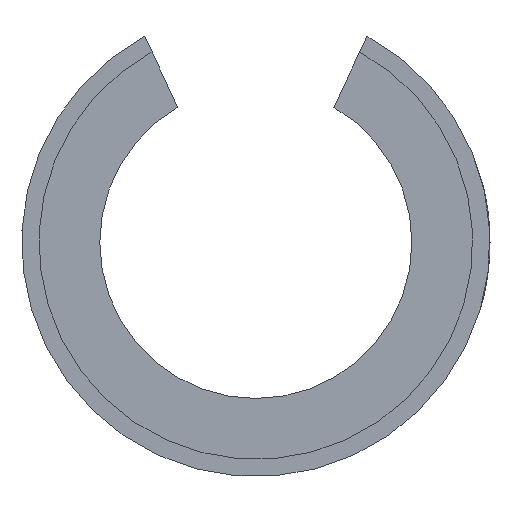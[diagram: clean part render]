
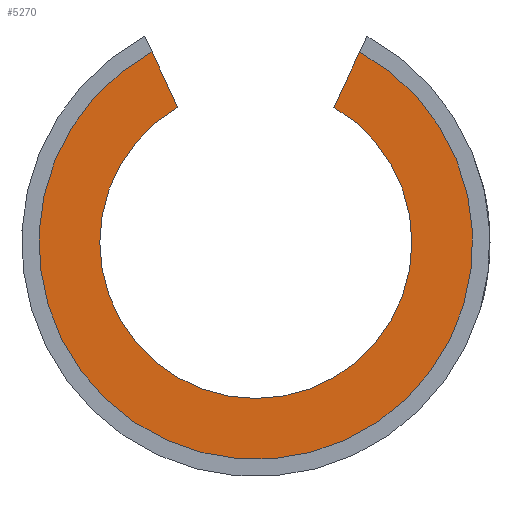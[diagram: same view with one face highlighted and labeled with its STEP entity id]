
A CAD part, left-side view. The second image highlights one B-rep face of the part: STEP entity #5270.
In plain terms, the highlighted planar face has unit normal (-1, 0, 0).
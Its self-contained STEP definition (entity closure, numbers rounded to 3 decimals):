
#125=PLANE('',#5683);
#347=CIRCLE('',#5658,40.);
#360=CIRCLE('',#5684,55.594);
#542=LINE('',#8469,#987);
#543=LINE('',#8471,#988);
#987=VECTOR('',#6264,1000.);
#988=VECTOR('',#6265,1000.);
#1607=ORIENTED_EDGE('',*,*,#3182,.T.);
#1608=ORIENTED_EDGE('',*,*,#3143,.T.);
#1609=ORIENTED_EDGE('',*,*,#3183,.T.);
#1610=ORIENTED_EDGE('',*,*,#3184,.F.);
#3143=EDGE_CURVE('',#3937,#3938,#347,.F.);
#3182=EDGE_CURVE('',#3963,#3937,#542,.T.);
#3183=EDGE_CURVE('',#3938,#3964,#543,.T.);
#3184=EDGE_CURVE('',#3963,#3964,#360,.T.);
#3937=VERTEX_POINT('',#8392);
#3938=VERTEX_POINT('',#8393);
#3963=VERTEX_POINT('',#8470);
#3964=VERTEX_POINT('',#8472);
#4489=EDGE_LOOP('',(#1607,#1608,#1609,#1610));
#4869=FACE_BOUND('',#4489,.T.);
#5270=ADVANCED_FACE('',(#4869),#125,.T.);
#5658=AXIS2_PLACEMENT_3D('',#8391,#6186,#6187);
#5683=AXIS2_PLACEMENT_3D('',#8468,#6262,#6263);
#5684=AXIS2_PLACEMENT_3D('',#8473,#6266,#6267);
#6186=DIRECTION('',(-1.,0.,0.));
#6187=DIRECTION('',(0.,0.,1.));
#6262=DIRECTION('',(-1.,0.,0.));
#6263=DIRECTION('',(0.,0.,-1.));
#6264=DIRECTION('',(0.,0.423,-0.906));
#6265=DIRECTION('',(0.,0.423,0.906));
#6266=DIRECTION('',(1.,0.,0.));
#6267=DIRECTION('',(0.,0.,-1.));
#8391=CARTESIAN_POINT('',(-66.,0.,0.));
#8392=CARTESIAN_POINT('',(-66.,-20.,34.641));
#8393=CARTESIAN_POINT('',(-66.,20.,34.641));
#8468=CARTESIAN_POINT('',(-66.,0.,0.));
#8469=CARTESIAN_POINT('',(-66.,-20.,34.641));
#8470=CARTESIAN_POINT('',(-66.,-26.608,48.813));
#8471=CARTESIAN_POINT('',(-66.,20.,34.641));
#8472=CARTESIAN_POINT('',(-66.,26.608,48.813));
#8473=CARTESIAN_POINT('',(-66.,0.,0.));
